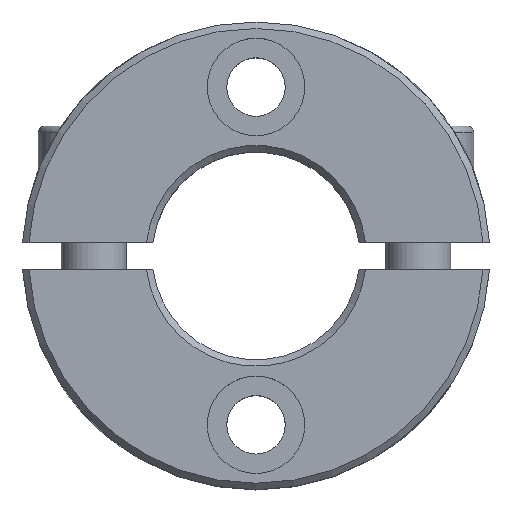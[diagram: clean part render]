
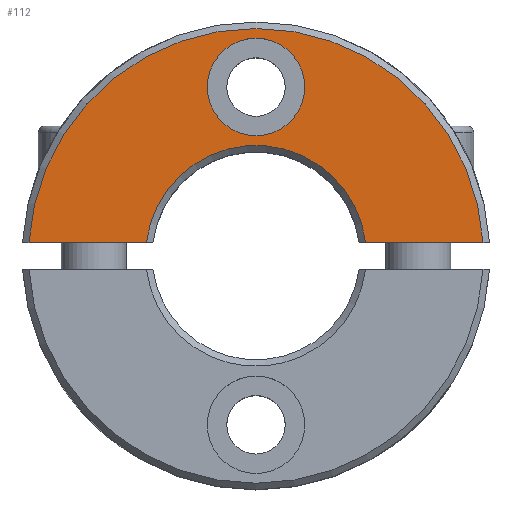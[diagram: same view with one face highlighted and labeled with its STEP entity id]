
A CAD part, top view. The second image highlights one B-rep face of the part: STEP entity #112.
In plain terms, the highlighted planar face has unit normal (0, 0, 1).
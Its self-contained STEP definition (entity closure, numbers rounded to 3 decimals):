
#112 = ADVANCED_FACE( '', ( #235, #236 ), #237, .T. );
#235 = FACE_OUTER_BOUND( '', #397, .T. );
#236 = FACE_BOUND( '', #398, .T. );
#237 = PLANE( '', #399 );
#397 = EDGE_LOOP( '', ( #703, #704, #705, #706 ) );
#398 = EDGE_LOOP( '', ( #707 ) );
#399 = AXIS2_PLACEMENT_3D( '', #708, #709, #710 );
#703 = ORIENTED_EDGE( '', *, *, #890, .F. );
#704 = ORIENTED_EDGE( '', *, *, #908, .T. );
#705 = ORIENTED_EDGE( '', *, *, #902, .F. );
#706 = ORIENTED_EDGE( '', *, *, #894, .F. );
#707 = ORIENTED_EDGE( '', *, *, #941, .T. );
#708 = CARTESIAN_POINT( '', ( 0., 8.5, 6.5 ) );
#709 = DIRECTION( '', ( 0., 0., 1. ) );
#710 = DIRECTION( '', ( 1., 0., 0. ) );
#890 = EDGE_CURVE( '', #1015, #1017, #1018, .T. );
#894 = EDGE_CURVE( '', #1017, #1024, #1025, .T. );
#902 = EDGE_CURVE( '', #1024, #1037, #1038, .T. );
#908 = EDGE_CURVE( '', #1015, #1037, #1047, .T. );
#941 = EDGE_CURVE( '', #1106, #1106, #1107, .F. );
#1015 = VERTEX_POINT( '', #1352 );
#1017 = VERTEX_POINT( '', #1357 );
#1018 = LINE( '', #1358, #1359 );
#1024 = VERTEX_POINT( '', #1372 );
#1025 = CIRCLE( '', #1373, 8.5 );
#1037 = VERTEX_POINT( '', #1392 );
#1038 = LINE( '', #1393, #1394 );
#1047 = CIRCLE( '', #1411, 17.5 );
#1106 = VERTEX_POINT( '', #1609 );
#1107 = CIRCLE( '', #1610, 3.75 );
#1352 = CARTESIAN_POINT( '', ( 17.468, 1.05, 6.5 ) );
#1357 = CARTESIAN_POINT( '', ( 8.435, 1.05, 6.5 ) );
#1358 = CARTESIAN_POINT( '', ( 20., 1.05, 6.5 ) );
#1359 = VECTOR( '', #1767, 1000. );
#1372 = CARTESIAN_POINT( '', ( -8.435, 1.05, 6.5 ) );
#1373 = AXIS2_PLACEMENT_3D( '', #1769, #1770, #1771 );
#1392 = CARTESIAN_POINT( '', ( -17.468, 1.05, 6.5 ) );
#1393 = CARTESIAN_POINT( '', ( 0., 1.05, 6.5 ) );
#1394 = VECTOR( '', #1785, 1000. );
#1411 = AXIS2_PLACEMENT_3D( '', #1791, #1792, #1793 );
#1609 = CARTESIAN_POINT( '', ( 3.75, 13., 6.5 ) );
#1610 = AXIS2_PLACEMENT_3D( '', #1848, #1849, #1850 );
#1767 = DIRECTION( '', ( -1., 0., 0. ) );
#1769 = CARTESIAN_POINT( '', ( 0., 0., 6.5 ) );
#1770 = DIRECTION( '', ( 0., 0., 1. ) );
#1771 = DIRECTION( '', ( 1., 0., 0. ) );
#1785 = DIRECTION( '', ( -1., 0., 0. ) );
#1791 = CARTESIAN_POINT( '', ( 0., 0., 6.5 ) );
#1792 = DIRECTION( '', ( 0., 0., 1. ) );
#1793 = DIRECTION( '', ( 1., 0., 0. ) );
#1848 = CARTESIAN_POINT( '', ( 0., 13., 6.5 ) );
#1849 = DIRECTION( '', ( 0., 0., 1. ) );
#1850 = DIRECTION( '', ( 1., 0., 0. ) );
